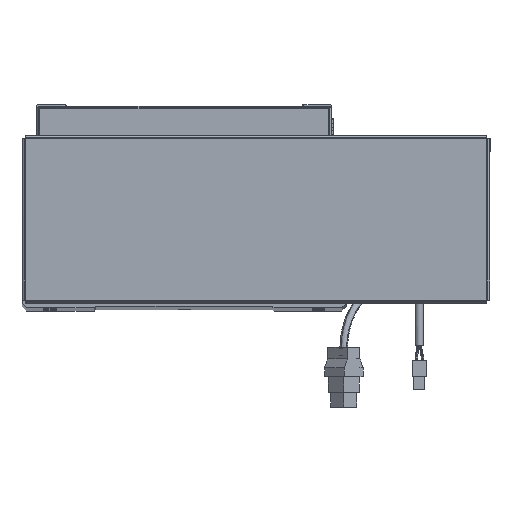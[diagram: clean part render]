
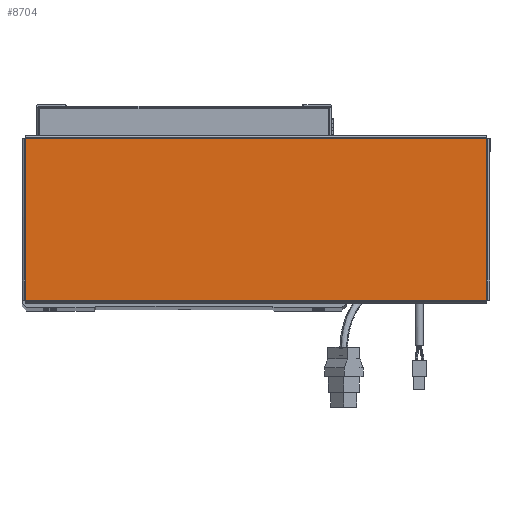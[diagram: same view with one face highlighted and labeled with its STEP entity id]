
A CAD part, top view. The second image highlights one B-rep face of the part: STEP entity #8704.
In plain terms, the highlighted planar face has unit normal (0, 0, 1).
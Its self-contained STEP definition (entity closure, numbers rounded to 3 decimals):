
#6715 = LINE ( 'NONE', #45919, #14864 ) ;
#7861 = EDGE_CURVE ( 'NONE', #12716, #54841, #22804, .T. ) ;
#8704 = ADVANCED_FACE ( 'NONE', ( #65170 ), #62884, .T. ) ;
#10340 = CARTESIAN_POINT ( 'NONE',  ( 156.513, -54.763, 0. ) ) ;
#12716 = VERTEX_POINT ( 'NONE', #31265 ) ;
#12951 = VERTEX_POINT ( 'NONE', #27148 ) ;
#14864 = VECTOR ( 'NONE', #60983, 1000. ) ;
#18908 = VECTOR ( 'NONE', #40966, 1000. ) ;
#19980 = CARTESIAN_POINT ( 'NONE',  ( 156.543, 54.763, 0. ) ) ;
#22804 = LINE ( 'NONE', #19980, #52881 ) ;
#22999 = VECTOR ( 'NONE', #40944, 1000. ) ;
#25052 = CARTESIAN_POINT ( 'NONE',  ( -156.513, 54.763, 0. ) ) ;
#26789 = EDGE_CURVE ( 'NONE', #12951, #33217, #6715, .T. ) ;
#26970 = EDGE_CURVE ( 'NONE', #54841, #12951, #46570, .T. ) ;
#27085 = DIRECTION ( 'NONE',  ( 1., 0., 0. ) ) ;
#27148 = CARTESIAN_POINT ( 'NONE',  ( -156.513, -54.763, 0. ) ) ;
#30179 = DIRECTION ( 'NONE',  ( -1., 0., 0. ) ) ;
#31265 = CARTESIAN_POINT ( 'NONE',  ( 156.513, 54.763, 0. ) ) ;
#33217 = VERTEX_POINT ( 'NONE', #10340 ) ;
#35753 = CARTESIAN_POINT ( 'NONE',  ( -156.513, 54.793, 0. ) ) ;
#40944 = DIRECTION ( 'NONE',  ( 0., 1., 0. ) ) ;
#40966 = DIRECTION ( 'NONE',  ( 0., -1., 0. ) ) ;
#45919 = CARTESIAN_POINT ( 'NONE',  ( -156.543, -54.763, 0. ) ) ;
#46357 = EDGE_CURVE ( 'NONE', #33217, #12716, #56375, .T. ) ;
#46570 = LINE ( 'NONE', #35753, #18908 ) ;
#47818 = CARTESIAN_POINT ( 'NONE',  ( 0., 0., 0. ) ) ;
#52607 = DIRECTION ( 'NONE',  ( 0., 0., 1. ) ) ;
#52881 = VECTOR ( 'NONE', #30179, 1000. ) ;
#53147 = AXIS2_PLACEMENT_3D ( 'NONE', #47818, #52607, #27085 ) ;
#54841 = VERTEX_POINT ( 'NONE', #25052 ) ;
#55327 = ORIENTED_EDGE ( 'NONE', *, *, #46357, .T. ) ;
#55852 = ORIENTED_EDGE ( 'NONE', *, *, #26789, .T. ) ;
#56375 = LINE ( 'NONE', #62572, #22999 ) ;
#56750 = EDGE_LOOP ( 'NONE', ( #55852, #55327, #57051, #59079 ) ) ;
#57051 = ORIENTED_EDGE ( 'NONE', *, *, #7861, .T. ) ;
#59079 = ORIENTED_EDGE ( 'NONE', *, *, #26970, .T. ) ;
#60983 = DIRECTION ( 'NONE',  ( 1., 0., 0. ) ) ;
#62572 = CARTESIAN_POINT ( 'NONE',  ( 156.513, -54.793, 0. ) ) ;
#62884 = PLANE ( 'NONE',  #53147 ) ;
#65170 = FACE_OUTER_BOUND ( 'NONE', #56750, .T. ) ;
